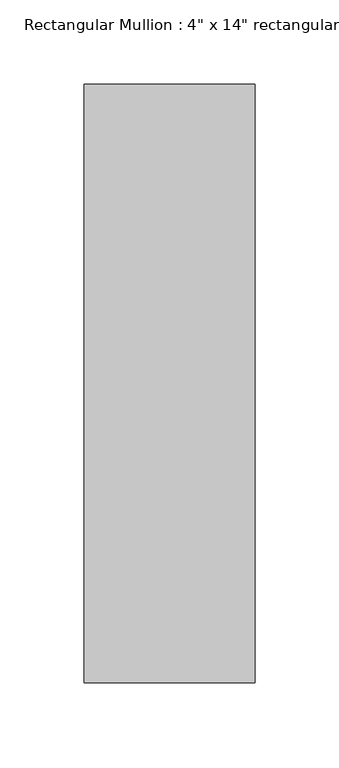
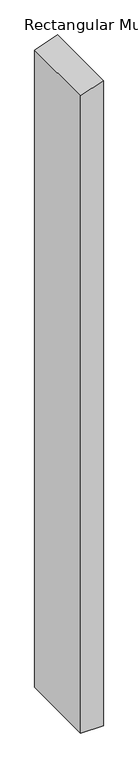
"""IFC4 building model written with IfcOpenShell, lengths in millimetres: member geometry."""

from ifc_helpers import new_model, si_unit, frame, origin, place, context, project, spatial, polyline, outline, extrude, source, transform, mapped, element, save


def member_54c4eb68(model_context):
    return source(origin(), model_context, "Body", "SweptSolid", [
        extrude(outline(polyline([(0.0, 0.0), (-36.9221579, -101.6), (-3048.0, -101.6), (-3048.0, 0.0), (0.0, 0.0)])), frame((0.0, -12.7, 0.0), z_axis=(0.0, 1.0, 0.0), x_axis=(0.0, 0.0, 1.0)), (0.0, 0.0, 1.0), 355.6),
    ])


if __name__ == "__main__":
    model = new_model("IFC4")
    model_context = context("Model", 3, world=origin())
    ifc_project = project(units=[si_unit("LENGTHUNIT", "METRE", prefix="MILLI")], contexts=[model_context])
    site = spatial("IfcSite", under=ifc_project)
    building = spatial("IfcBuilding", under=site)
    placement = place(None, origin())
    member_shape = member_54c4eb68(model_context)
    element("IfcMember", 1, ObjectType="Rectangular Mullion : 4\" x 14\" rectangular", at=placement, inside=building, context=model_context, shape_type="MappedRepresentation", body=[
        mapped(member_shape, transform((0.0, 0.0, 0.0), x_axis=(1.0, 0.0, 0.0), y_axis=(0.0, 1.0, 0.0), z_axis=(0.0, 0.0, 1.0))),
    ])
    save(model, "model.ifc")
